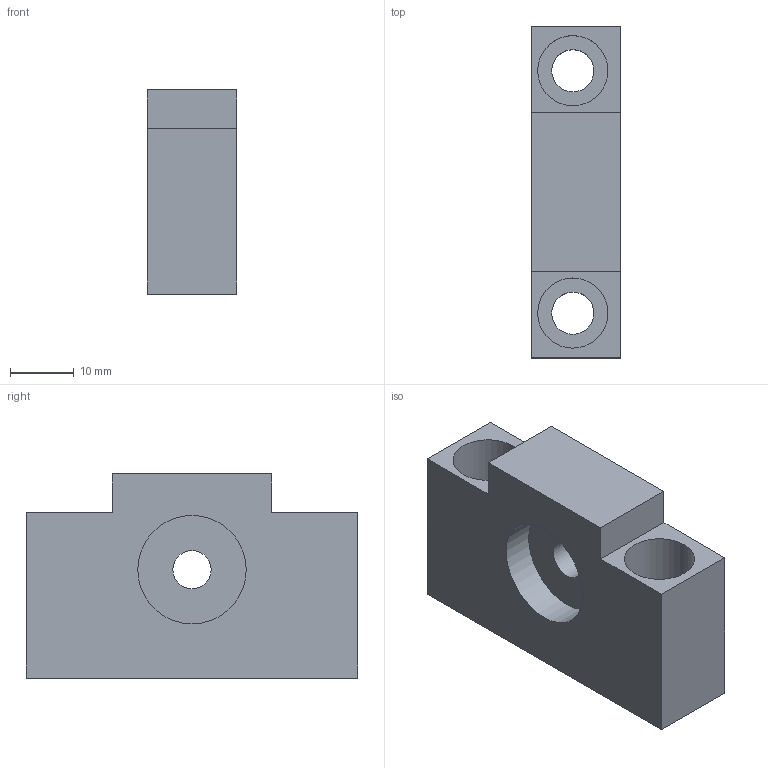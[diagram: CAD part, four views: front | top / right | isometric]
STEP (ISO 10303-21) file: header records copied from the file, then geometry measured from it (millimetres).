
FILE_DESCRIPTION(/* description */ (''),/* implementation_level */ '2;1');
FILE_NAME(/* name */ 'EF8-STP.stp',/* time_stamp */ '2019-11-15T16:38:59+08:00',/* author */ (''),/* organization */ (''),/* preprocessor_version */ 'ST-DEVELOPER v14',/* originating_system */ 'SIEMENS PLM Software NX 8.0',/* authorisation */ '');
FILE_SCHEMA (('AUTOMOTIVE_DESIGN { 1 0 10303 214 3 1 1 1 }'));
Length unit declared in the file: millimetre
Products named in the file (3): 706; EF8-sub; EF8
Assembly tree (2 placements, depth 2):
  EF8
    EF8-sub
    706
Bounding box: 14 x 52 x 32 mm (x, y, z)
Volume: 15925.4 mm3; surface area: 7726.1 mm2
Topology: 2 solids, 2 shells, 21 faces, 45 edges, 30 vertices
Faces by surface type: plane 14, cylinder 7
Full cylindrical faces by diameter (mm): 6 x1, 6.6 x2, 11 x2, 17 x2
Entity records: 622 total; most frequent: DIRECTION 100, CARTESIAN_POINT 92, ORIENTED_EDGE 76, EDGE_LOOP 38, EDGE_CURVE 38, AXIS2_PLACEMENT_3D 38, FACE_BOUND 33, VERTEX_POINT 30
